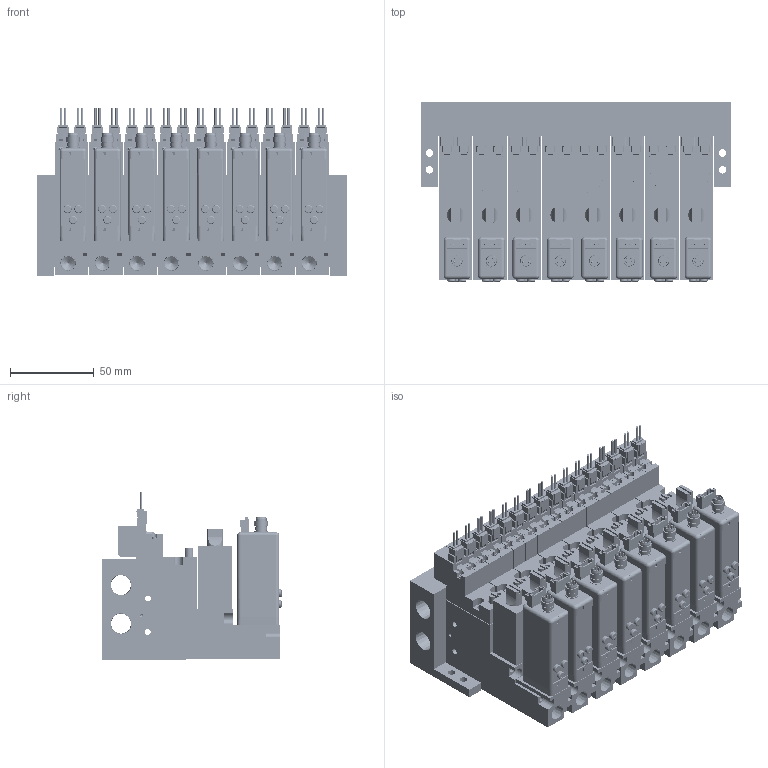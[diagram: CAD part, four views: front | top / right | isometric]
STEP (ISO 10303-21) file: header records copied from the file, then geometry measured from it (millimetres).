
FILE_DESCRIPTION(('STEP AP203'),'1');
FILE_NAME('BMPV32M2N20225BL808.stp','2025-06-16T09:02:40',(' '),(' '),'Spatial InterOp 3D',' ',' ');
FILE_SCHEMA(('CONFIG_CONTROL_DESIGN'));
Length unit declared in the file: millimetre
Products named in the file (100): BMPV32M2N20225BL808; MVS-202; ___-3(Rc); Filter Assy; __; _____; ___ ___; MB BRACKET; MB08; ___; upper plate-A; ______; ____; VACUUM VALVE FUNCTION MPV42-A
Assembly tree (99 placements, depth 2):
  BMPV32M2N20225BL808
    MVS-202
    ___-3(Rc)
    Filter Assy
    __
    _____
    ___ ___
    MVS-202
    ___-3(Rc)
    Filter Assy
    __
    _____
    ___ ___
    MVS-202
    ___-3(Rc)
    Filter Assy
    __
    _____
    ___ ___
    MVS-202
    ___-3(Rc)
    Filter Assy
    __
    _____
    ___ ___
    MVS-202
    ___-3(Rc)
    Filter Assy
    __
    _____
    ___ ___
    MVS-202
    ___-3(Rc)
    Filter Assy
    __
    _____
    ___ ___
    MVS-202
    ___-3(Rc)
    Filter Assy
    __
    _____
    ___ ___
    MB BRACKET
    MB08
    MB BRACKET
    MVS-202
    ___-3(Rc)
    Filter Assy
    __
    _____
    ___ ___
    ___
    upper plate-A
    ______
    ____
    VACUUM VALVE FUNCTION MPV42-A
    VACUUM VALVE FUNCTION MPV42-A
    ___
    upper plate-A
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Bounding box: 184.5 x 106.6 x 99.75 mm (x, y, z)
Volume: 1022326.6 mm3; surface area: 358353.6 mm2
Topology: 99 solids, 131 shells, 6151 faces, 15788 edges, 10360 vertices
Faces by surface type: plane 5037, cylinder 922, cone 136, sphere 32, torus 24
Full cylindrical faces by diameter (mm): 1 x32, 1.4 x32, 1.5 x8, 1.8 x16, 2 x16, 2.5 x20, 2.8 x32, 3 x32, 3.5 x84, 4 x8, 4.2 x8, 4.5 x36, 4.8 x24, 5 x24, 5.5 x8, 5.8 x16, 6 x8, 6.5 x30, 7 x8, 7.2 x8, 7.9 x8, 8 x16, 8.2 x8, 8.759 x8, 11.776 x2
Entity records: 185686 total; most frequent: CARTESIAN_POINT 32455, ORIENTED_EDGE 29768, DIRECTION 29602, EDGE_CURVE 14884, LINE 12412, VECTOR 12412, VERTEX_POINT 10200, AXIS2_PLACEMENT_3D 8595
